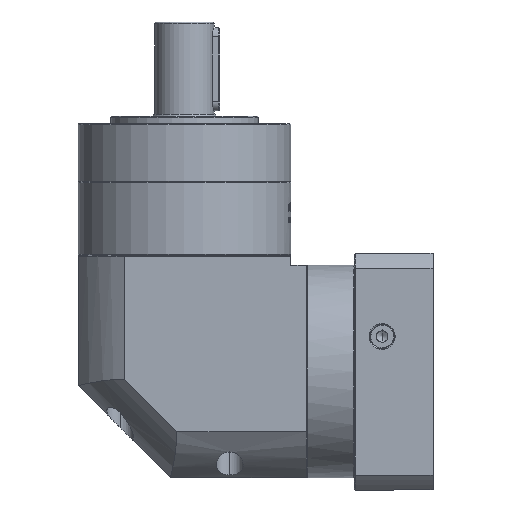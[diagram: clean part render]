
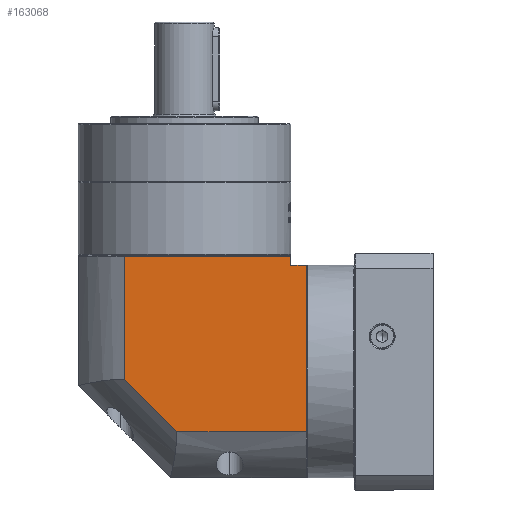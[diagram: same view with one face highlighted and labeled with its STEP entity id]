
A CAD part, left-side view. The second image highlights one B-rep face of the part: STEP entity #163068.
In plain terms, the highlighted planar face has unit normal (-1, 0, 0).
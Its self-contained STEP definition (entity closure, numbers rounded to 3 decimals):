
#2461 = VERTEX_POINT ( 'NONE', #110953 ) ;
#5824 = EDGE_CURVE ( 'NONE', #2461, #144922, #135435, .T. ) ;
#8419 = AXIS2_PLACEMENT_3D ( 'NONE', #12446, #80720, #110828 ) ;
#11501 = LINE ( 'NONE', #107620, #44547 ) ;
#12446 = CARTESIAN_POINT ( 'NONE',  ( -292.94, 35.527, 72.389 ) ) ;
#19661 = LINE ( 'NONE', #62969, #112012 ) ;
#21382 = CARTESIAN_POINT ( 'NONE',  ( -292.94, -17.911, -29.011 ) ) ;
#27849 = EDGE_CURVE ( 'NONE', #31547, #156017, #125830, .T. ) ;
#29070 = EDGE_CURVE ( 'NONE', #47877, #92089, #19661, .T. ) ;
#31547 = VERTEX_POINT ( 'NONE', #91650 ) ;
#35760 = DIRECTION ( 'NONE',  ( 0., 1., 0. ) ) ;
#36046 = CARTESIAN_POINT ( 'NONE',  ( -292.94, 35.527, 65.889 ) ) ;
#36055 = CARTESIAN_POINT ( 'NONE',  ( -292.94, -79.473, 65.889 ) ) ;
#38329 = VECTOR ( 'NONE', #165328, 1000. ) ;
#44547 = VECTOR ( 'NONE', #35760, 1000. ) ;
#47877 = VERTEX_POINT ( 'NONE', #21382 ) ;
#50526 = ORIENTED_EDGE ( 'NONE', *, *, #90738, .F. ) ;
#51087 = DIRECTION ( 'NONE',  ( 0., 0., -1. ) ) ;
#53659 = DIRECTION ( 'NONE',  ( 0., 0., 1. ) ) ;
#54865 = CARTESIAN_POINT ( 'NONE',  ( -292.94, -79.473, -54.111 ) ) ;
#59243 = ORIENTED_EDGE ( 'NONE', *, *, #27849, .F. ) ;
#62969 = CARTESIAN_POINT ( 'NONE',  ( -292.94, -17.911, -29.011 ) ) ;
#64375 = LINE ( 'NONE', #148896, #128110 ) ;
#69506 = EDGE_CURVE ( 'NONE', #31547, #2461, #154736, .T. ) ;
#69904 = FACE_OUTER_BOUND ( 'NONE', #93582, .T. ) ;
#78389 = DIRECTION ( 'NONE',  ( 0., 0., 1. ) ) ;
#80720 = DIRECTION ( 'NONE',  ( 1., 0., 0. ) ) ;
#83107 = PLANE ( 'NONE',  #8419 ) ;
#83437 = ORIENTED_EDGE ( 'NONE', *, *, #173600, .F. ) ;
#86676 = ORIENTED_EDGE ( 'NONE', *, *, #69506, .T. ) ;
#90738 = EDGE_CURVE ( 'NONE', #92089, #178793, #64375, .T. ) ;
#91650 = CARTESIAN_POINT ( 'NONE',  ( -292.94, -87.873, 60.889 ) ) ;
#91709 = CARTESIAN_POINT ( 'NONE',  ( -292.94, -87.873, -29.011 ) ) ;
#92089 = VERTEX_POINT ( 'NONE', #94443 ) ;
#93582 = EDGE_LOOP ( 'NONE', ( #50526, #130119, #150765, #59243, #86676, #115690, #83437 ) ) ;
#94443 = CARTESIAN_POINT ( 'NONE',  ( -292.94, 10.427, -0.673 ) ) ;
#104727 = CARTESIAN_POINT ( 'NONE',  ( -292.94, -79.473, 60.889 ) ) ;
#107620 = CARTESIAN_POINT ( 'NONE',  ( -292.94, 35.527, -29.011 ) ) ;
#110828 = DIRECTION ( 'NONE',  ( 0., 1., 0. ) ) ;
#110953 = CARTESIAN_POINT ( 'NONE',  ( -292.94, -79.473, 60.889 ) ) ;
#112012 = VECTOR ( 'NONE', #151286, 1000. ) ;
#115690 = ORIENTED_EDGE ( 'NONE', *, *, #5824, .T. ) ;
#125830 = LINE ( 'NONE', #176341, #139063 ) ;
#128110 = VECTOR ( 'NONE', #78389, 1000. ) ;
#130119 = ORIENTED_EDGE ( 'NONE', *, *, #29070, .F. ) ;
#133299 = VECTOR ( 'NONE', #53659, 1000. ) ;
#135435 = LINE ( 'NONE', #54865, #133299 ) ;
#136715 = VECTOR ( 'NONE', #150736, 1000. ) ;
#139063 = VECTOR ( 'NONE', #51087, 1000. ) ;
#143469 = EDGE_CURVE ( 'NONE', #156017, #47877, #11501, .T. ) ;
#144922 = VERTEX_POINT ( 'NONE', #36055 ) ;
#148896 = CARTESIAN_POINT ( 'NONE',  ( -292.94, 10.427, 72.389 ) ) ;
#150736 = DIRECTION ( 'NONE',  ( 0., -1., 0. ) ) ;
#150765 = ORIENTED_EDGE ( 'NONE', *, *, #143469, .F. ) ;
#151286 = DIRECTION ( 'NONE',  ( 0., 0.707, 0.707 ) ) ;
#154736 = LINE ( 'NONE', #104727, #38329 ) ;
#156017 = VERTEX_POINT ( 'NONE', #91709 ) ;
#160861 = LINE ( 'NONE', #36046, #136715 ) ;
#163068 = ADVANCED_FACE ( 'NONE', ( #69904 ), #83107, .F. ) ;
#165328 = DIRECTION ( 'NONE',  ( 0., 1., 0. ) ) ;
#167677 = CARTESIAN_POINT ( 'NONE',  ( -292.94, 10.427, 65.889 ) ) ;
#173600 = EDGE_CURVE ( 'NONE', #178793, #144922, #160861, .T. ) ;
#176341 = CARTESIAN_POINT ( 'NONE',  ( -292.94, -87.873, 72.389 ) ) ;
#178793 = VERTEX_POINT ( 'NONE', #167677 ) ;
